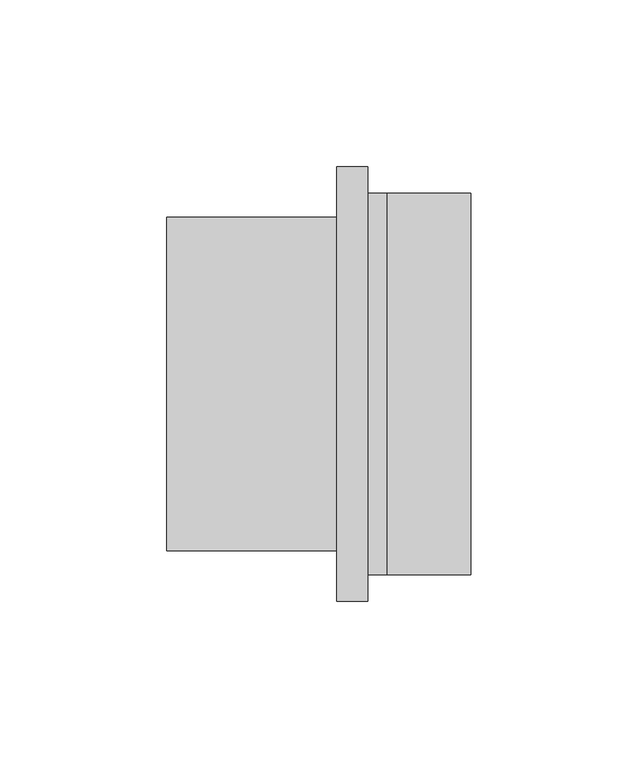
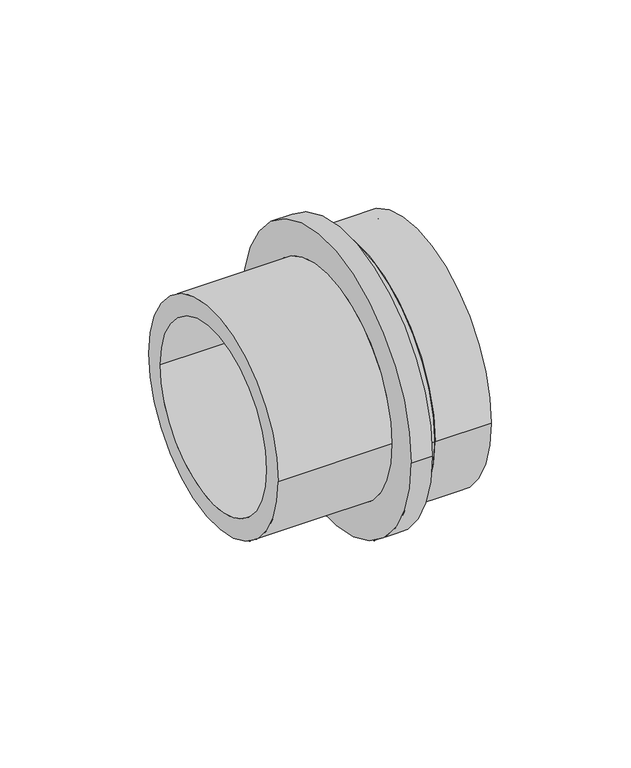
"""IFC4 building model written with IfcOpenShell, lengths in millimetres: pipe fitting geometry, Adapter with welding end : A welding RX."""

from ifc_helpers import new_model, si_unit, point, frame, origin, origin_2d, place, context, project, spatial, polyline, circle_curve, trimmed, segment, composite_curve, outline, extrude, source, transform, mapped, element, save
from ifc_brep_helpers import plane_surface, cylinder_surface, revolved_surface, advanced_brep


def pipe_fitting_f6b20089(model_context):
    return source(origin(), model_context, "Body", "SolidModel", [
        extrude(outline(composite_curve([segment(trimmed(circle_curve(origin_2d(), 57.1), [point((-57.1, 0.0))], [point((57.1, 0.0))], False, "CARTESIAN"), True, "CONTINUOUS"), segment(trimmed(circle_curve(origin_2d(), 57.1), [point((57.1, 0.0))], [point((-57.1, 0.0))], False, "CARTESIAN"), True, "CONTINUOUS")], self_intersect=False), holes=[composite_curve([segment(trimmed(circle_curve(origin_2d(), 52.95), [point((52.95, 0.0))], [point((-52.95, 0.0))], True, "CARTESIAN"), True, "CONTINUOUS"), segment(trimmed(circle_curve(origin_2d(), 52.95), [point((-52.95, 0.0))], [point((52.95, 0.0))], True, "CARTESIAN"), True, "CONTINUOUS")], self_intersect=False)]), frame((0.0, 0.0, 0.0), z_axis=(1.0, 0.0, 0.0), x_axis=(0.0, 1.0, 0.0)), (0.0, 0.0, 1.0), 25.0),
        advanced_brep(
        [(0.0, 57.1, 0.0), (0.0, -57.1, 0.0), (-5.8, -57.1, 0.0), (-5.8, 57.1, 0.0), (-5.8, 52.95, 0.0), (-5.8, -52.95, 0.0), (0.0, -52.95, 0.0), (0.0, 52.95, 0.0), (-66.0, 41.0, 0.0), (-66.0, -41.0, 0.0), (-5.8, -41.0, 0.0), (-5.8, 41.0, 0.0), (-15.2, 50.0, 0.0), (-15.2, -50.0, 0.0), (-66.0, -50.0, 0.0), (-66.0, 50.0, 0.0), (-5.8, 65.0, 0.0), (-5.8, -65.0, 0.0), (-15.2, -65.0, 0.0), (-15.2, 65.0, 0.0)],
        [
            (0, 1, circle_curve(frame((0.0, 0.0, 0.0), z_axis=(-1.0, 0.0, 0.0), x_axis=(0.0, -1.0, 0.0)), 57.1)),
            (1, 2),
            (2, 3, circle_curve(frame((-5.8, 0.0, 0.0), z_axis=(1.0, 0.0, 0.0), x_axis=(0.0, -1.0, 0.0)), 57.1)),
            (3, 0),
            (4, 5, circle_curve(frame((-5.8, 0.0, 0.0), z_axis=(-1.0, 0.0, 0.0), x_axis=(0.0, -1.0, 0.0)), 52.95)),
            (5, 6),
            (6, 7, circle_curve(frame((0.0, 0.0, 0.0), z_axis=(1.0, 0.0, 0.0), x_axis=(0.0, -1.0, 0.0)), 52.95)),
            (7, 4),
            (8, 9, circle_curve(frame((-66.0, 0.0, 0.0), z_axis=(-1.0, 0.0, 0.0), x_axis=(0.0, -1.0, 0.0)), 41.0)),
            (9, 10),
            (10, 11, circle_curve(frame((-5.8, 0.0, 0.0), z_axis=(1.0, 0.0, 0.0), x_axis=(0.0, -1.0, 0.0)), 41.0)),
            (11, 8),
            (12, 13, circle_curve(frame((-15.2, 0.0, 0.0), z_axis=(-1.0, 0.0, 0.0), x_axis=(0.0, -1.0, 0.0)), 50.0)),
            (13, 14),
            (14, 15, circle_curve(frame((-66.0, 0.0, 0.0), z_axis=(1.0, 0.0, 0.0), x_axis=(0.0, -1.0, 0.0)), 50.0)),
            (15, 12),
            (16, 17, circle_curve(frame((-5.8, 0.0, 0.0), z_axis=(-1.0, 0.0, 0.0), x_axis=(0.0, -1.0, 0.0)), 65.0)),
            (17, 18),
            (18, 19, circle_curve(frame((-15.2, 0.0, 0.0), z_axis=(1.0, 0.0, 0.0), x_axis=(0.0, -1.0, 0.0)), 65.0)),
            (19, 16),
            (16, 17, circle_curve(frame((-5.8, 0.0, 0.0), z_axis=(1.0, 0.0, 0.0), x_axis=(0.0, 1.0, 0.0)), 65.0)),
            (2, 3, circle_curve(frame((-5.8, 0.0, 0.0), z_axis=(-1.0, 0.0, 0.0), x_axis=(0.0, 1.0, 0.0)), 57.1)),
            (1, 0, circle_curve(frame((0.0, 0.0, 0.0), z_axis=(-1.0, 0.0, 0.0), x_axis=(0.0, 1.0, 0.0)), 57.1)),
            (6, 7, circle_curve(frame((0.0, 0.0, 0.0), z_axis=(-1.0, 0.0, 0.0), x_axis=(0.0, 1.0, 0.0)), 52.95)),
            (5, 4, circle_curve(frame((-5.8, 0.0, 0.0), z_axis=(-1.0, 0.0, 0.0), x_axis=(0.0, 1.0, 0.0)), 52.95)),
            (10, 11, circle_curve(frame((-5.8, 0.0, 0.0), z_axis=(-1.0, 0.0, 0.0), x_axis=(0.0, 1.0, 0.0)), 41.0)),
            (9, 8, circle_curve(frame((-66.0, 0.0, 0.0), z_axis=(-1.0, 0.0, 0.0), x_axis=(0.0, 1.0, 0.0)), 41.0)),
            (14, 15, circle_curve(frame((-66.0, 0.0, 0.0), z_axis=(-1.0, 0.0, 0.0), x_axis=(0.0, 1.0, 0.0)), 50.0)),
            (13, 12, circle_curve(frame((-15.2, 0.0, 0.0), z_axis=(-1.0, 0.0, 0.0), x_axis=(0.0, 1.0, 0.0)), 50.0)),
            (18, 19, circle_curve(frame((-15.2, 0.0, 0.0), z_axis=(-1.0, 0.0, 0.0), x_axis=(0.0, 1.0, 0.0)), 65.0)),
        ],
        [
            cylinder_surface(frame((0.0, 0.0, 0.0), z_axis=(1.0, 0.0, 0.0), x_axis=(0.0, -1.0, 0.0)), 57.1),
            revolved_surface(polyline([(0.0, -52.95, 0.0), (-5.8, -52.95, 0.0)]), (0.0, 0.0, 0.0), (1.0, 0.0, 0.0)),
            revolved_surface(polyline([(-5.8, -41.0, 0.0), (-66.0, -41.0, 0.0)]), (0.0, 0.0, 0.0), (1.0, 0.0, 0.0)),
            cylinder_surface(frame((0.0, 0.0, 0.0), z_axis=(1.0, 0.0, 0.0), x_axis=(0.0, -1.0, 0.0)), 50.0),
            cylinder_surface(frame((0.0, 0.0, 0.0), z_axis=(1.0, 0.0, 0.0), x_axis=(0.0, -1.0, 0.0)), 65.0),
            plane_surface(frame((-5.8, 0.0, 0.0), z_axis=(1.0, 0.0, 0.0), x_axis=(0.0, 1.0, 0.0))),
            cylinder_surface(frame((0.0, 0.0, 0.0), z_axis=(1.0, 0.0, 0.0), x_axis=(0.0, 1.0, 0.0)), 57.1),
            plane_surface(frame((0.0, 0.0, 0.0), z_axis=(1.0, 0.0, 0.0), x_axis=(0.0, 1.0, 0.0))),
            revolved_surface(polyline([(0.0, 52.95, 0.0), (-5.8, 52.95, 0.0)]), (0.0, 0.0, 0.0), (1.0, 0.0, 0.0)),
            revolved_surface(polyline([(-5.8, 41.0, 0.0), (-66.0, 41.0, 0.0)]), (0.0, 0.0, 0.0), (1.0, 0.0, 0.0)),
            plane_surface(frame((-66.0, 0.0, 0.0), z_axis=(-1.0, 0.0, 0.0), x_axis=(0.0, 1.0, 0.0))),
            cylinder_surface(frame((0.0, 0.0, 0.0), z_axis=(1.0, 0.0, 0.0), x_axis=(0.0, 1.0, 0.0)), 50.0),
            plane_surface(frame((-15.2, 0.0, 0.0), z_axis=(-1.0, 0.0, 0.0), x_axis=(0.0, 1.0, 0.0))),
            cylinder_surface(frame((0.0, 0.0, 0.0), z_axis=(1.0, 0.0, 0.0), x_axis=(0.0, 1.0, 0.0)), 65.0),
        ],
        [
            (0, [[1, 2, 3, 4]]),
            (1, [[5, 6, 7, 8]]),
            (2, [[9, 10, 11, 12]]),
            (3, [[13, 14, 15, 16]]),
            (4, [[17, 18, 19, 20]]),
            (5, [[21, -17], [22, -3]]),
            (6, [[23, -4, -22, -2]]),
            (7, [[-23, -1], [24, -7]]),
            (8, [[25, -8, -24, -6]]),
            (5, [[-25, -5], [26, -11]]),
            (9, [[27, -12, -26, -10]]),
            (10, [[28, -15], [-27, -9]]),
            (11, [[29, -16, -28, -14]]),
            (12, [[30, -19], [-29, -13]]),
            (13, [[-21, -20, -30, -18]]),
        ],
    ),
    ])


if __name__ == "__main__":
    model = new_model("IFC4")
    model_context = context("Model", 3, world=origin())
    ifc_project = project(units=[si_unit("LENGTHUNIT", "METRE", prefix="MILLI")], contexts=[model_context])
    site = spatial("IfcSite", under=ifc_project)
    building = spatial("IfcBuilding", under=site)
    placement = place(None, origin())
    pipe_fitting_shape = pipe_fitting_f6b20089(model_context)
    element("IfcPipeFitting", 1, ObjectType="Adapter with welding end : A welding RX", at=placement, inside=building, context=model_context, shape_type="MappedRepresentation", body=[
        mapped(pipe_fitting_shape, transform((0.0, 0.0, 0.0), x_axis=(1.0, 0.0, 0.0), y_axis=(0.0, 1.0, 0.0), z_axis=(0.0, 0.0, 1.0))),
    ])
    save(model, "model.ifc")
